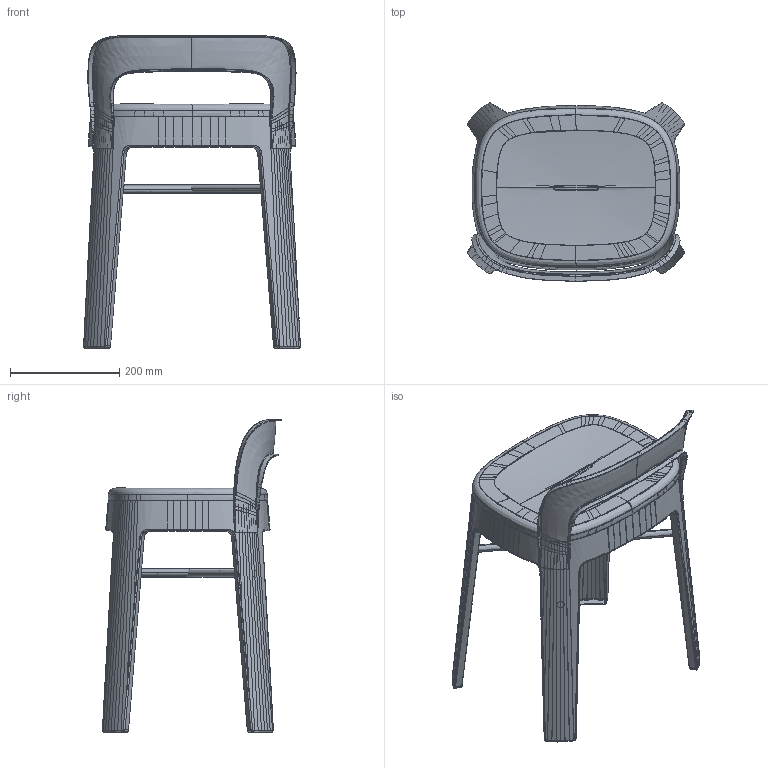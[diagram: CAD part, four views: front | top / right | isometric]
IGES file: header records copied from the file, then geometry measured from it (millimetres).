
Start section: START RECORD GO HERE.
Global section: file name: ombra_stool_45h+b.igs; native system: DASSAULT SYSTEMES CATIA Version 5-6 Release 2017 - www.3ds.com; preprocessor: V5-6R2017_5.27.0.0.10-19-2016.20.00; author: RAFA; organization: RAFA-PC; date: 20181017.171440; units: millimetre
Bounding box: 397.66 x 328.41 x 573.12 mm (x, y, z)
Surface area: 1028702.2 mm2 (no closed solid volume)
Topology: 0 solids, 0 shells, 995 faces, 4253 edges, 4269 vertices
Faces by surface type: bspline 983, plane 12
